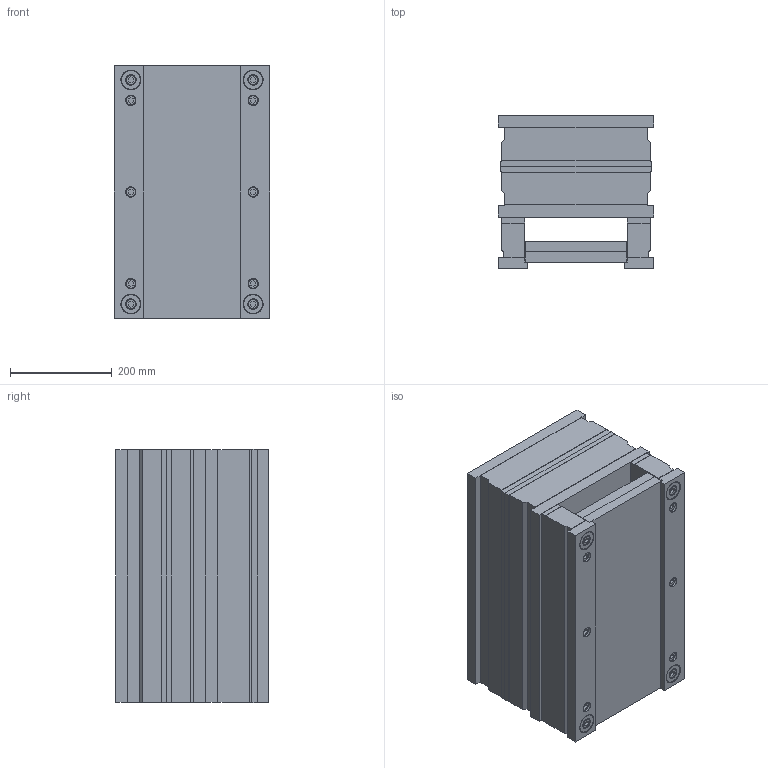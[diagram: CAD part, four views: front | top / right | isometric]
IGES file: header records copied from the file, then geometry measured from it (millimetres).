
Start section: SolidWorks IGES FILE using analytic representation for surfaces
Global section: file name: C:\Documents and Settings\K.P\My Documents\Mechanical\ALMO\CATL_EUR\RECT\2963.IGS; native system: SolidWorks 2001Plus by SolidWorks Corporation; preprocessor: Version 5.3; author: Pavel; date: 020710.073130; units: millimetre
Bounding box: 305 x 300 x 498 mm (x, y, z)
Surface area: 2057221.7 mm2 (no closed solid volume)
Topology: 0 solids, 0 shells, 922 faces, 16928 edges, 16908 vertices
Faces by surface type: revolution 568, bspline 354
